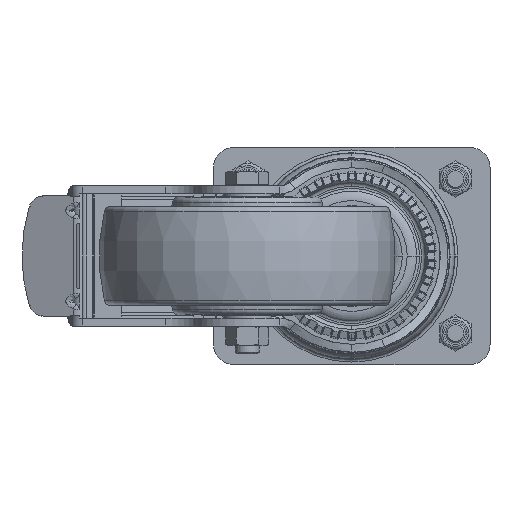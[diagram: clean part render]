
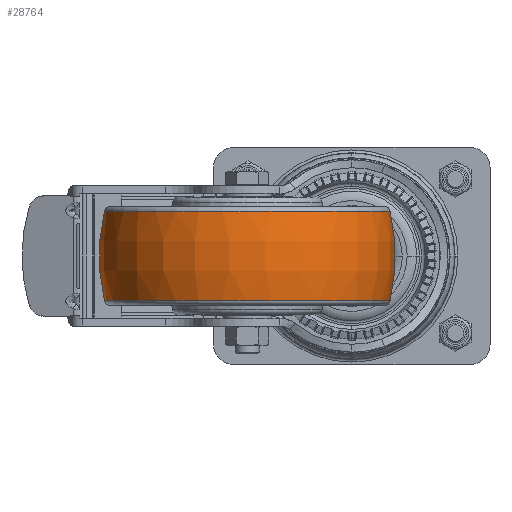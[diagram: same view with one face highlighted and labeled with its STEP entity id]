
A CAD part, front view. The second image highlights one B-rep face of the part: STEP entity #28764.
In plain terms, the highlighted toroidal (fillet/blend) face has major radius 25 mm and minor radius 100 mm.
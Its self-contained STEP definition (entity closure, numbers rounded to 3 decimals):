
#709 = CARTESIAN_POINT ( 'NONE',  ( -28., -511., 0. ) ) ;
#2223 = DIRECTION ( 'NONE',  ( -1., 0., 0. ) ) ;
#2239 = AXIS2_PLACEMENT_3D ( 'NONE', #709, #51460, #14249 ) ;
#3139 = DIRECTION ( 'NONE',  ( 0., 0., -1. ) ) ;
#4089 = CIRCLE ( 'NONE', #44803, 72.394 ) ;
#4150 = CARTESIAN_POINT ( 'NONE',  ( 19.394, -511., -22.68 ) ) ;
#4242 = VERTEX_POINT ( 'NONE', #50881 ) ;
#4790 = ORIENTED_EDGE ( 'NONE', *, *, #21029, .T. ) ;
#5808 = DIRECTION ( 'NONE',  ( -1., 0., 0. ) ) ;
#5813 = TOROIDAL_SURFACE ( 'NONE', #29696, -25., 100. ) ;
#9892 = VERTEX_POINT ( 'NONE', #4150 ) ;
#10473 = AXIS2_PLACEMENT_3D ( 'NONE', #21940, #18580, #35524 ) ;
#14249 = DIRECTION ( 'NONE',  ( 1., 0., 0. ) ) ;
#18580 = DIRECTION ( 'NONE',  ( 0., 0., -1. ) ) ;
#19126 = CARTESIAN_POINT ( 'NONE',  ( -53., -511., -22.68 ) ) ;
#19676 = DIRECTION ( 'NONE',  ( 0., 0., -1. ) ) ;
#20258 = EDGE_LOOP ( 'NONE', ( #42158, #4790, #36469, #30906 ) ) ;
#21029 = EDGE_CURVE ( 'NONE', #25046, #36635, #34420, .T. ) ;
#21940 = CARTESIAN_POINT ( 'NONE',  ( -53., -511., 22.68 ) ) ;
#25046 = VERTEX_POINT ( 'NONE', #50481 ) ;
#27893 = EDGE_CURVE ( 'NONE', #25046, #9892, #50051, .T. ) ;
#28764 = ADVANCED_FACE ( 'NONE', ( #32552 ), #5813, .T. ) ;
#29696 = AXIS2_PLACEMENT_3D ( 'NONE', #42474, #3139, #49477 ) ;
#30906 = ORIENTED_EDGE ( 'NONE', *, *, #43285, .F. ) ;
#32552 = FACE_OUTER_BOUND ( 'NONE', #20258, .T. ) ;
#34420 = CIRCLE ( 'NONE', #10473, 72.394 ) ;
#35009 = CARTESIAN_POINT ( 'NONE',  ( -125.394, -511., 22.68 ) ) ;
#35205 = CARTESIAN_POINT ( 'NONE',  ( -78., -511., 0. ) ) ;
#35524 = DIRECTION ( 'NONE',  ( -1., 0., 0. ) ) ;
#36469 = ORIENTED_EDGE ( 'NONE', *, *, #40894, .T. ) ;
#36635 = VERTEX_POINT ( 'NONE', #35009 ) ;
#40894 = EDGE_CURVE ( 'NONE', #36635, #4242, #50094, .T. ) ;
#42158 = ORIENTED_EDGE ( 'NONE', *, *, #27893, .F. ) ;
#42474 = CARTESIAN_POINT ( 'NONE',  ( -53., -511., 0. ) ) ;
#42736 = DIRECTION ( 'NONE',  ( 0., 1., 0. ) ) ;
#43285 = EDGE_CURVE ( 'NONE', #9892, #4242, #4089, .T. ) ;
#44803 = AXIS2_PLACEMENT_3D ( 'NONE', #19126, #19676, #2223 ) ;
#49477 = DIRECTION ( 'NONE',  ( 1., 0., 0. ) ) ;
#50051 = CIRCLE ( 'NONE', #50921, 100. ) ;
#50094 = CIRCLE ( 'NONE', #2239, 100. ) ;
#50481 = CARTESIAN_POINT ( 'NONE',  ( 19.394, -511., 22.68 ) ) ;
#50881 = CARTESIAN_POINT ( 'NONE',  ( -125.394, -511., -22.68 ) ) ;
#50921 = AXIS2_PLACEMENT_3D ( 'NONE', #35205, #42736, #5808 ) ;
#51460 = DIRECTION ( 'NONE',  ( 0., -1., 0. ) ) ;
